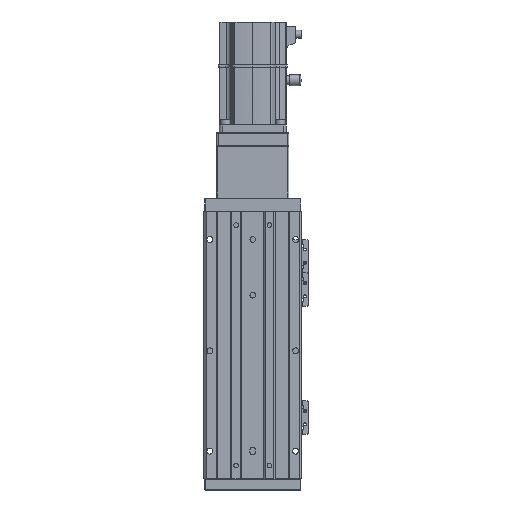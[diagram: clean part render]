
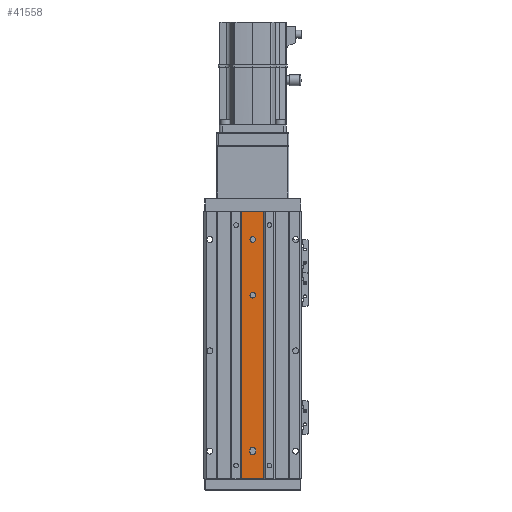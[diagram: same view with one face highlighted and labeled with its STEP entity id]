
A CAD part, front view. The second image highlights one B-rep face of the part: STEP entity #41558.
In plain terms, the highlighted planar face has unit normal (0, -1, 0).
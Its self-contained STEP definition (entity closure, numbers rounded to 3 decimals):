
#374 = EDGE_LOOP ( 'NONE', ( #35604, #19455, #19400, #42300 ) ) ;
#408 = DIRECTION ( 'NONE',  ( 1., 0., 0. ) ) ;
#1670 = DIRECTION ( 'NONE',  ( 0., 1., 0. ) ) ;
#1707 = DIRECTION ( 'NONE',  ( 1., 0., 0. ) ) ;
#1722 = DIRECTION ( 'NONE',  ( 1., 0., 0. ) ) ;
#2132 = CARTESIAN_POINT ( 'NONE',  ( 0., 1., 95. ) ) ;
#3095 = VERTEX_POINT ( 'NONE', #26897 ) ;
#4046 = EDGE_CURVE ( 'NONE', #35097, #9439, #28079, .T. ) ;
#5059 = FACE_OUTER_BOUND ( 'NONE', #374, .T. ) ;
#5168 = VERTEX_POINT ( 'NONE', #8594 ) ;
#5194 = VECTOR ( 'NONE', #40707, 1000. ) ;
#5542 = VERTEX_POINT ( 'NONE', #38773 ) ;
#6159 = CARTESIAN_POINT ( 'NONE',  ( -10., 1., -120. ) ) ;
#6173 = CARTESIAN_POINT ( 'NONE',  ( -2.5, 1., 95. ) ) ;
#7197 = CARTESIAN_POINT ( 'NONE',  ( 0., 1., 45. ) ) ;
#7643 = CARTESIAN_POINT ( 'NONE',  ( -10., 1., 120. ) ) ;
#8470 = FACE_BOUND ( 'NONE', #39698, .T. ) ;
#8594 = CARTESIAN_POINT ( 'NONE',  ( -2.5, 1., 45. ) ) ;
#9071 = DIRECTION ( 'NONE',  ( 1., 0., 0. ) ) ;
#9382 = EDGE_CURVE ( 'NONE', #5542, #5168, #10972, .T. ) ;
#9439 = VERTEX_POINT ( 'NONE', #7643 ) ;
#9961 = CIRCLE ( 'NONE', #35192, 2.5 ) ;
#10937 = DIRECTION ( 'NONE',  ( -1., 0., 0. ) ) ;
#10972 = CIRCLE ( 'NONE', #36188, 2.5 ) ;
#11080 = DIRECTION ( 'NONE',  ( 0., 0., 1. ) ) ;
#11090 = DIRECTION ( 'NONE',  ( 0., 0., -1. ) ) ;
#11600 = AXIS2_PLACEMENT_3D ( 'NONE', #2132, #15943, #29693 ) ;
#11666 = VECTOR ( 'NONE', #11090, 1000. ) ;
#12053 = CARTESIAN_POINT ( 'NONE',  ( -10., 1., -120. ) ) ;
#12819 = EDGE_CURVE ( 'NONE', #27649, #16918, #16470, .T. ) ;
#13131 = VECTOR ( 'NONE', #10937, 1000. ) ;
#13190 = LINE ( 'NONE', #26947, #5194 ) ;
#13417 = DIRECTION ( 'NONE',  ( 0., -1., 0. ) ) ;
#13714 = VERTEX_POINT ( 'NONE', #17558 ) ;
#14294 = EDGE_CURVE ( 'NONE', #13714, #9439, #42941, .T. ) ;
#14534 = CARTESIAN_POINT ( 'NONE',  ( 2.5, 1., -94. ) ) ;
#15491 = DIRECTION ( 'NONE',  ( -1., 0., 0. ) ) ;
#15681 = CARTESIAN_POINT ( 'NONE',  ( 10., 1., 120. ) ) ;
#15926 = CIRCLE ( 'NONE', #41124, 2.5 ) ;
#15943 = DIRECTION ( 'NONE',  ( 0., -1., 0. ) ) ;
#16470 = CIRCLE ( 'NONE', #22231, 2.5 ) ;
#16712 = ORIENTED_EDGE ( 'NONE', *, *, #28840, .F. ) ;
#16918 = VERTEX_POINT ( 'NONE', #24733 ) ;
#17171 = EDGE_CURVE ( 'NONE', #30078, #13714, #37095, .T. ) ;
#17558 = CARTESIAN_POINT ( 'NONE',  ( -10., 1., -120. ) ) ;
#17914 = ORIENTED_EDGE ( 'NONE', *, *, #29207, .F. ) ;
#18415 = ORIENTED_EDGE ( 'NONE', *, *, #12819, .F. ) ;
#18534 = VECTOR ( 'NONE', #25806, 1000. ) ;
#18854 = PLANE ( 'NONE',  #36198 ) ;
#18890 = CARTESIAN_POINT ( 'NONE',  ( 0., 1., 95. ) ) ;
#18902 = CARTESIAN_POINT ( 'NONE',  ( 0., 1., -94. ) ) ;
#19400 = ORIENTED_EDGE ( 'NONE', *, *, #17171, .F. ) ;
#19455 = ORIENTED_EDGE ( 'NONE', *, *, #14294, .F. ) ;
#19943 = DIRECTION ( 'NONE',  ( -1., 0., 0. ) ) ;
#21095 = AXIS2_PLACEMENT_3D ( 'NONE', #26237, #39987, #9071 ) ;
#21108 = VECTOR ( 'NONE', #19943, 1000. ) ;
#21672 = CARTESIAN_POINT ( 'NONE',  ( -2.5, 1., -96. ) ) ;
#22231 = AXIS2_PLACEMENT_3D ( 'NONE', #44303, #13417, #27168 ) ;
#22234 = FACE_BOUND ( 'NONE', #26458, .T. ) ;
#23268 = ORIENTED_EDGE ( 'NONE', *, *, #35892, .F. ) ;
#24733 = CARTESIAN_POINT ( 'NONE',  ( 2.5, 1., -96. ) ) ;
#25409 = VECTOR ( 'NONE', #11080, 1000. ) ;
#25439 = VERTEX_POINT ( 'NONE', #33280 ) ;
#25806 = DIRECTION ( 'NONE',  ( 0., 0., 1. ) ) ;
#26237 = CARTESIAN_POINT ( 'NONE',  ( 0., 1., 45. ) ) ;
#26458 = EDGE_LOOP ( 'NONE', ( #16712, #18415, #30363, #23268 ) ) ;
#26674 = EDGE_CURVE ( 'NONE', #30105, #3095, #15926, .T. ) ;
#26742 = EDGE_CURVE ( 'NONE', #3095, #30105, #31056, .T. ) ;
#26897 = CARTESIAN_POINT ( 'NONE',  ( 2.5, 1., 95. ) ) ;
#26947 = CARTESIAN_POINT ( 'NONE',  ( 2.5, 1., -96. ) ) ;
#27168 = DIRECTION ( 'NONE',  ( 1., 0., 0. ) ) ;
#27414 = ORIENTED_EDGE ( 'NONE', *, *, #26674, .F. ) ;
#27649 = VERTEX_POINT ( 'NONE', #21672 ) ;
#28079 = LINE ( 'NONE', #41834, #13131 ) ;
#28223 = LINE ( 'NONE', #41972, #25409 ) ;
#28229 = LINE ( 'NONE', #41978, #11666 ) ;
#28840 = EDGE_CURVE ( 'NONE', #16918, #29063, #13190, .T. ) ;
#29063 = VERTEX_POINT ( 'NONE', #14534 ) ;
#29207 = EDGE_CURVE ( 'NONE', #5168, #5542, #40526, .T. ) ;
#29693 = DIRECTION ( 'NONE',  ( 1., 0., 0. ) ) ;
#30078 = VERTEX_POINT ( 'NONE', #30106 ) ;
#30105 = VERTEX_POINT ( 'NONE', #6173 ) ;
#30106 = CARTESIAN_POINT ( 'NONE',  ( 10., 1., -120. ) ) ;
#30363 = ORIENTED_EDGE ( 'NONE', *, *, #38389, .F. ) ;
#31056 = CIRCLE ( 'NONE', #11600, 2.5 ) ;
#31365 = DIRECTION ( 'NONE',  ( 0., -1., 0. ) ) ;
#32608 = CARTESIAN_POINT ( 'NONE',  ( -10., 1., -120. ) ) ;
#32646 = DIRECTION ( 'NONE',  ( 0., -1., 0. ) ) ;
#32660 = DIRECTION ( 'NONE',  ( 0., -1., 0. ) ) ;
#33280 = CARTESIAN_POINT ( 'NONE',  ( -2.5, 1., -94. ) ) ;
#35097 = VERTEX_POINT ( 'NONE', #15681 ) ;
#35192 = AXIS2_PLACEMENT_3D ( 'NONE', #18902, #32660, #1722 ) ;
#35604 = ORIENTED_EDGE ( 'NONE', *, *, #4046, .T. ) ;
#35892 = EDGE_CURVE ( 'NONE', #29063, #25439, #9961, .T. ) ;
#35995 = FACE_BOUND ( 'NONE', #36848, .T. ) ;
#36188 = AXIS2_PLACEMENT_3D ( 'NONE', #7197, #31365, #408 ) ;
#36198 = AXIS2_PLACEMENT_3D ( 'NONE', #32608, #1670, #15491 ) ;
#36848 = EDGE_LOOP ( 'NONE', ( #43329, #17914 ) ) ;
#37095 = LINE ( 'NONE', #6159, #21108 ) ;
#38389 = EDGE_CURVE ( 'NONE', #25439, #27649, #28229, .T. ) ;
#38773 = CARTESIAN_POINT ( 'NONE',  ( 2.5, 1., 45. ) ) ;
#39698 = EDGE_LOOP ( 'NONE', ( #42468, #27414 ) ) ;
#39987 = DIRECTION ( 'NONE',  ( 0., -1., 0. ) ) ;
#40526 = CIRCLE ( 'NONE', #21095, 2.5 ) ;
#40707 = DIRECTION ( 'NONE',  ( 0., 0., 1. ) ) ;
#41124 = AXIS2_PLACEMENT_3D ( 'NONE', #18890, #32646, #1707 ) ;
#41558 = ADVANCED_FACE ( 'NONE', ( #8470, #22234, #35995, #5059 ), #18854, .F. ) ;
#41807 = EDGE_CURVE ( 'NONE', #30078, #35097, #28223, .T. ) ;
#41834 = CARTESIAN_POINT ( 'NONE',  ( -10., 1., 120. ) ) ;
#41972 = CARTESIAN_POINT ( 'NONE',  ( 10., 1., -120. ) ) ;
#41978 = CARTESIAN_POINT ( 'NONE',  ( -2.5, 1., -96. ) ) ;
#42300 = ORIENTED_EDGE ( 'NONE', *, *, #41807, .T. ) ;
#42468 = ORIENTED_EDGE ( 'NONE', *, *, #26742, .F. ) ;
#42941 = LINE ( 'NONE', #12053, #18534 ) ;
#43329 = ORIENTED_EDGE ( 'NONE', *, *, #9382, .F. ) ;
#44303 = CARTESIAN_POINT ( 'NONE',  ( 0., 1., -96. ) ) ;
